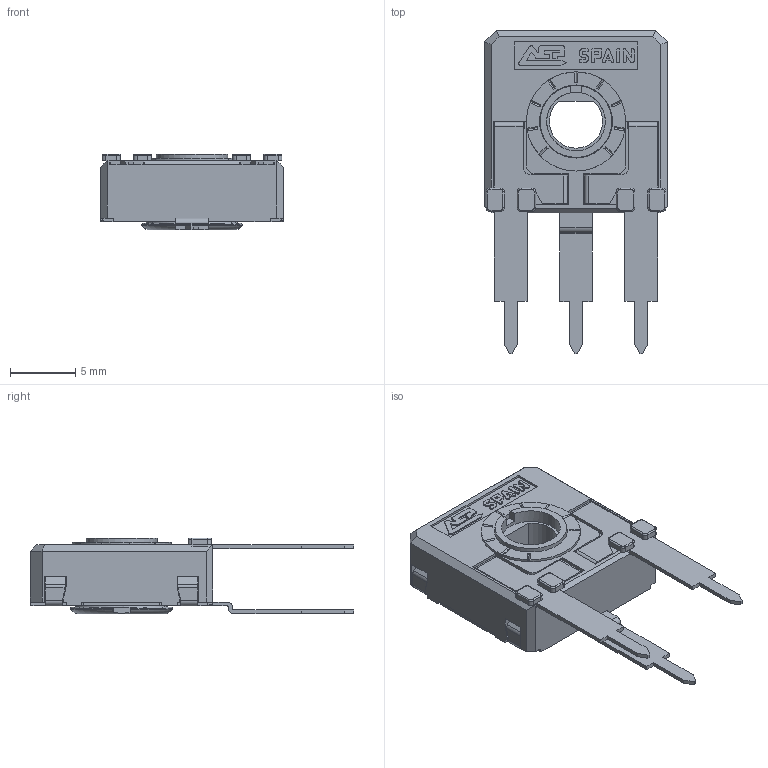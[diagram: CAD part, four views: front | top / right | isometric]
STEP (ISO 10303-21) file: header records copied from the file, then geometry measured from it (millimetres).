
FILE_DESCRIPTION(/* description */ (''),/* implementation_level */ '2;1');
FILE_NAME(/* name */ '\\SERVERACP\intercambio\Ignacio Santa Cecilia\Nueva WEB 2025\CA14 - CE14\CA14DHL5.stp',/* time_stamp */ '2025-06-06T09:49:58+02:00',/* author */ ('CEM'),/* organization */ (''),/* preprocessor_version */ 'ST-DEVELOPER v17',/* originating_system */ 'Autodesk Inventor 2018',/* authorisation */ '');
FILE_SCHEMA (('AUTOMOTIVE_DESIGN { 1 0 10303 214 3 1 1 }'));
Length unit declared in the file: millimetre
Products named in the file (1): CARCASA CA14 PGA
Bounding box: 14 x 24.8 x 5.8 mm (x, y, z)
Volume: 536.2 mm3; surface area: 1516.7 mm2
Topology: 1 solids, 1 shells, 664 faces, 1875 edges, 1207 vertices
Faces by surface type: plane 493, cylinder 134, torus 23, bspline 8, cone 6
Full cylindrical faces by diameter (mm): 4.5 x1, 5.5 x1, 5.6 x1, 5.752 x1, 6.8 x1, 7.6 x1
Entity records: 21677 total; most frequent: CARTESIAN_POINT 4044, ORIENTED_EDGE 3750, DIRECTION 3497, EDGE_CURVE 1875, LINE 1477, VECTOR 1477, VERTEX_POINT 1207, AXIS2_PLACEMENT_3D 1010
